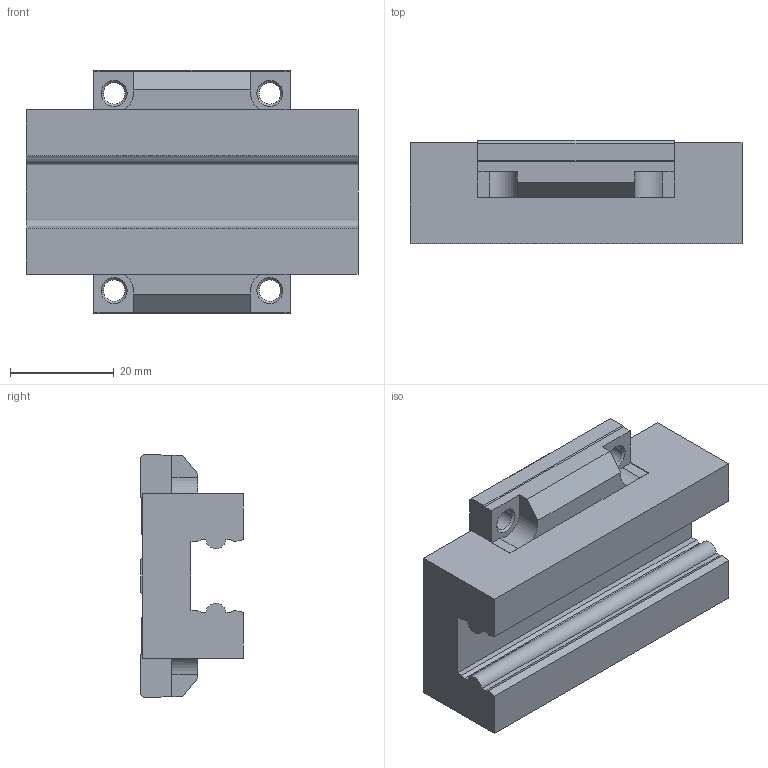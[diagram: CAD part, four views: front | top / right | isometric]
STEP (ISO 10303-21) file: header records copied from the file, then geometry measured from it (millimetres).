
FILE_DESCRIPTION( ( '' ), '1' );
FILE_NAME( 'c:/dr_tretter_step_out/schienenfuehrungen/alu_sf/fns_1500.stp', '2008-09-03T09:11:46', ( '' ), ( '' ), ' ', ' ', ' ' );
FILE_SCHEMA( ( 'CONFIG_CONTROL_DESIGN' ) );
Length unit declared in the file: millimetre
Products named in the file (1): 1
Bounding box: 64 x 19.8 x 47 mm (x, y, z)
Volume: 35647.2 mm3; surface area: 10712.4 mm2
Topology: 1 solids, 1 shells, 106 faces, 280 edges, 176 vertices
Faces by surface type: plane 76, cone 16, cylinder 14
Entity records: 3276 total; most frequent: CARTESIAN_POINT 563, ORIENTED_EDGE 560, DIRECTION 542, EDGE_CURVE 280, LINE 232, VECTOR 232, VERTEX_POINT 176, AXIS2_PLACEMENT_3D 155
